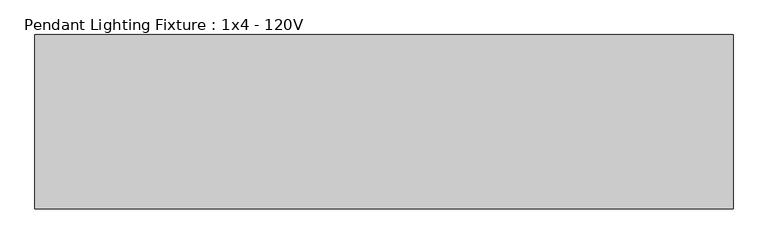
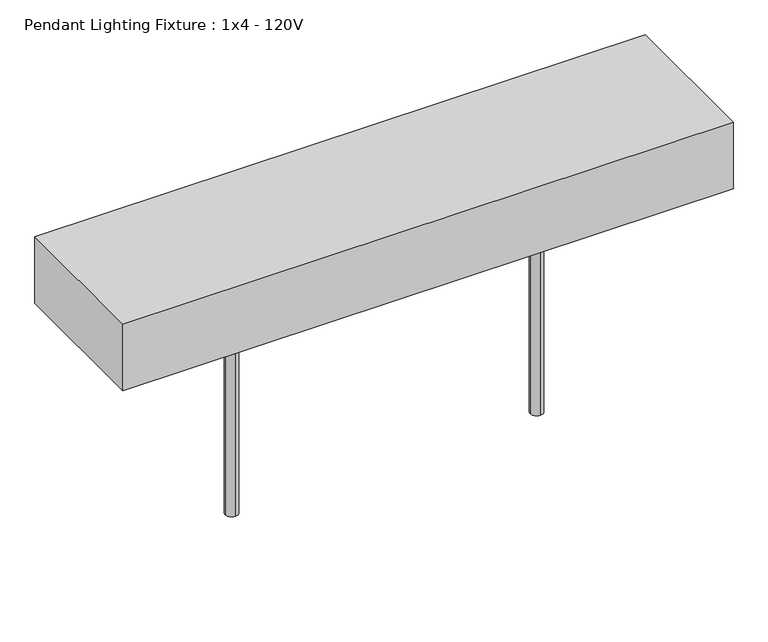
"""IFC4 building model written with IfcOpenShell, lengths in millimetres: light fixture geometry, Pendant Lighting Fixture : 1x4 - 120V."""

from ifc_helpers import new_model, si_unit, point, frame, frame_2d, origin, origin_with_axes, place, context, project, spatial, polyline, circle_curve, trimmed, segment, composite_curve, outline, extrude, source, transform, mapped, element, save


def pendant_lighting_fixture_1x4_120v_a2b2c7f0(model_context):
    return source(origin(), model_context, "Body", "SweptSolid", [
        extrude(outline(composite_curve([segment(trimmed(circle_curve(frame_2d((304.8, -101.6)), 12.7), [point((317.5, -101.6))], [point((304.8, -114.3))], False, "CARTESIAN"), True, "CONTINUOUS"), segment(trimmed(circle_curve(frame_2d((304.8, -101.6)), 12.7), [point((304.8, -114.3))], [point((292.1, -101.6))], False, "CARTESIAN"), True, "CONTINUOUS"), segment(trimmed(circle_curve(frame_2d((304.8, -101.6)), 12.7), [point((292.1, -101.6))], [point((304.8, -88.9))], False, "CARTESIAN"), True, "CONTINUOUS"), segment(trimmed(circle_curve(frame_2d((304.8, -101.6)), 12.7), [point((304.8, -88.9))], [point((317.5, -101.6))], False, "CARTESIAN"), True, "CONTINUOUS")], self_intersect=False)), origin_with_axes(), (0.0, 0.0, 1.0), 457.2),
        extrude(outline(composite_curve([segment(trimmed(circle_curve(frame_2d((914.4, -101.6)), 12.7), [point((927.1, -101.6))], [point((914.4, -114.3))], False, "CARTESIAN"), True, "CONTINUOUS"), segment(trimmed(circle_curve(frame_2d((914.4, -101.6)), 12.7), [point((914.4, -114.3))], [point((901.7, -101.6))], False, "CARTESIAN"), True, "CONTINUOUS"), segment(trimmed(circle_curve(frame_2d((914.4, -101.6)), 12.7), [point((901.7, -101.6))], [point((914.4, -88.9))], False, "CARTESIAN"), True, "CONTINUOUS"), segment(trimmed(circle_curve(frame_2d((914.4, -101.6)), 12.7), [point((914.4, -88.9))], [point((927.1, -101.6))], False, "CARTESIAN"), True, "CONTINUOUS")], self_intersect=False)), origin_with_axes(), (0.0, 0.0, 1.0), 457.2),
        extrude(outline(polyline([(1219.2, 50.8), (1219.2, -254.0), (0.0, -254.0), (0.0, 50.8), (1219.2, 50.8)])), frame((0.0, 0.0, 457.2), z_axis=(0.0, 0.0, 1.0), x_axis=(1.0, 0.0, 0.0)), (0.0, 0.0, 1.0), 139.7),
    ])


if __name__ == "__main__":
    model = new_model("IFC4")
    model_context = context("Model", 3, world=origin())
    ifc_project = project(units=[si_unit("LENGTHUNIT", "METRE", prefix="MILLI")], contexts=[model_context])
    site = spatial("IfcSite", under=ifc_project)
    building = spatial("IfcBuilding", under=site)
    placement = place(None, origin())
    pendant_lighting_fixture_1x4_120v_shape = pendant_lighting_fixture_1x4_120v_a2b2c7f0(model_context)
    element("IfcLightFixture", 1, ObjectType="Pendant Lighting Fixture : 1x4 - 120V", at=placement, inside=building, context=model_context, shape_type="MappedRepresentation", body=[
        mapped(pendant_lighting_fixture_1x4_120v_shape, transform((0.0, 0.0, 0.0), x_axis=(1.0, 0.0, 0.0), y_axis=(0.0, 1.0, 0.0), z_axis=(0.0, 0.0, 1.0))),
    ])
    save(model, "model.ifc")
